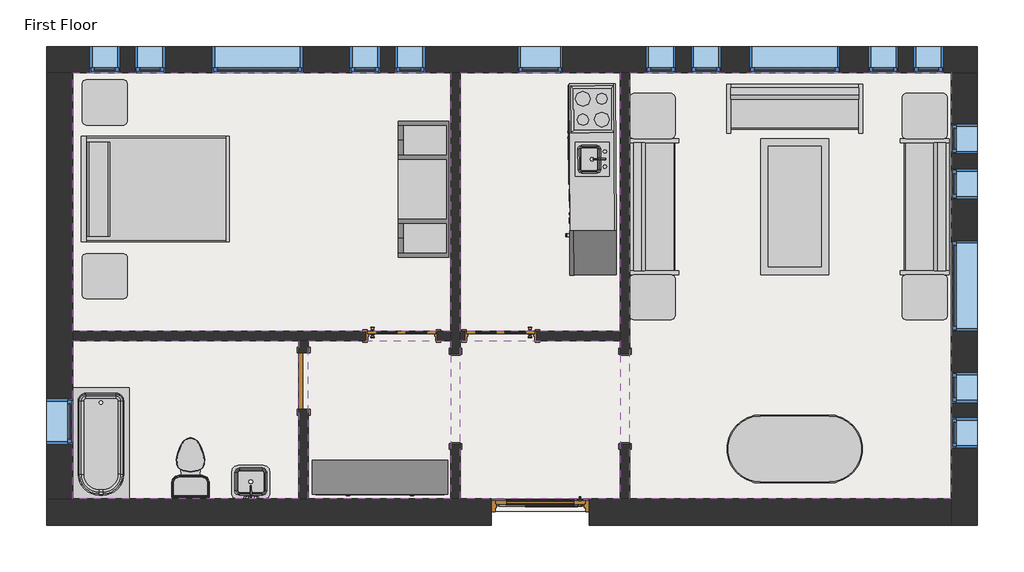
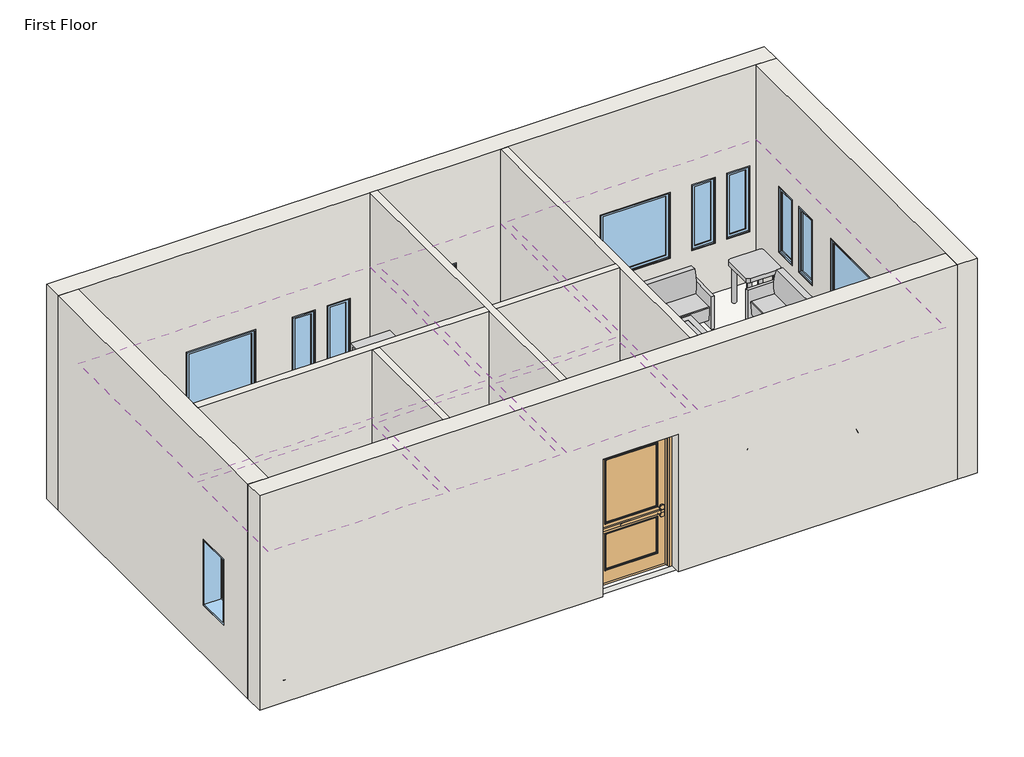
# One storey, incomplete: 17 windows, 15 furniture elements, 8 walls, 6 coverings, 6 proxies, 4 doors, 4 flow terminals, 1 slab.
"""IFC4 building model written with IfcOpenShell, lengths in millimetres."""

from ifc_helpers import new_model, si_unit, frame, origin, place, context, project, spatial, polyline, outline, extrude, faceted_brep, transform, mapped, element, save
from components import proxy_a6faaae8, proxy_45b28599, kitchenette_medium_kitchenette_medium_7c2ce49e, proxy_f44482cc, proxy_d58c73d0, proxy_c523a7b7, door_734823c0, door_3a280f7b, door_48307b55, door_4d6c7550, flow_terminal_871c2e40, flow_terminal_62a433f7, toilet_domestic_3d_toilet_domestic_3d_f7549cf7, toilet_domestic_3d_toilet_domestic_3d_183bbd19, tub_rectangular_3d_tub_rectangular_3d_c56944d8, furniture_096e7f55, furniture_b11095bc, furniture_7c473f12, furniture_cf0b6580, furniture_a4ffab56, furniture_cd93a443, furniture_2c34a4f9, furniture_bcf351fa, window_da97879f, window_d61ef850, window_60baf983, window_6eb97611

model = new_model("IFC4")

# Units and contexts
model_context = context("Model", 3, world=origin())
ifc_project = project(units=[si_unit("LENGTHUNIT", "METRE", prefix="MILLI")], contexts=[model_context])

# Site, building, storey
site = spatial("IfcSite", under=ifc_project)
building = spatial("IfcBuilding", under=site)
storey = spatial("IfcBuildingStorey", under=building, Name="First Floor", Elevation=-914.4)

# Proxies
placement = place(None, origin())
proxy_shape = proxy_a6faaae8(model_context)
element("IfcBuildingElementProxy", 1, Name="Cook Top-4 Unit2 : 22\" x 20\"", ObjectType="Cook Top-4 Unit2 : 22\" x 20\"", at=placement, inside=storey, context=model_context, shape_type="MappedRepresentation", body=[
    mapped(proxy_shape, transform((-9018.4960044, 7119.1504805, -912.7), x_axis=(-0.006146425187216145, 0.9999811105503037, 0.0), y_axis=(-0.9999811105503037, -0.006146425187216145, 0.0), z_axis=(0.0, 0.0, 1.0))),
])
proxy_2_shape = proxy_45b28599(model_context)
element("IfcBuildingElementProxy", 2, Name="Dishwasher : 24\" x 24\" x 34\"", ObjectType="Dishwasher : 24\" x 24\" x 34\"", at=placement, inside=storey, context=model_context, shape_type="MappedRepresentation", body=[
    mapped(proxy_2_shape, transform((-9272.7442837, 6166.3872338, -914.4), x_axis=(0.006146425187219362, -0.9999811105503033, 0.0), y_axis=(0.9999811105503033, 0.006146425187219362, 0.0), z_axis=(0.0, 0.0, 1.0))),
])
kitchenette_medium_kitchenette_medium_shape = kitchenette_medium_kitchenette_medium_7c2ce49e(model_context)
element("IfcBuildingElementProxy", 3, Name="Kitchenette - Medium : Kitchenette - Medium", ObjectType="Kitchenette - Medium : Kitchenette - Medium", at=placement, inside=storey, context=model_context, shape_type="MappedRepresentation", body=[
    mapped(kitchenette_medium_kitchenette_medium_shape, transform((-8705.3594425, 6796.9067689, -914.4), x_axis=(0.006146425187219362, -0.9999811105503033, 0.0), y_axis=(0.9999811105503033, 0.006146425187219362, 0.0), z_axis=(0.0, 0.0, 1.0))),
])
proxy_3_shape = proxy_f44482cc(model_context)
element("IfcBuildingElementProxy", 4, Name="Passage Opening-Cased : 48\" x 84\"", ObjectType="Passage Opening-Cased : 48\" x 84\"", at=placement, inside=storey, context=model_context, shape_type="MappedRepresentation", body=[
    mapped(proxy_3_shape, transform((-8577.1844712, 3224.0452741, -914.4), x_axis=(0.0, 1.0, 0.0), y_axis=(-1.0, 0.0, 0.0), z_axis=(0.0, 0.0, 1.0))),
])
proxy_4_shape = proxy_d58c73d0(model_context)
element("IfcBuildingElementProxy", 5, Name="Passage Opening-Cased : 48\" x 84\"", ObjectType="Passage Opening-Cased : 48\" x 84\"", at=placement, inside=storey, context=model_context, shape_type="MappedRepresentation", body=[
    mapped(proxy_4_shape, transform((-10863.1844712, 3224.0452741, -914.4), x_axis=(0.0, 1.0, 0.0), y_axis=(-1.0, 0.0, 0.0), z_axis=(0.0, 0.0, 1.0))),
])
proxy_5_shape = proxy_c523a7b7(model_context)
element("IfcBuildingElementProxy", 6, Name="Refrigerator : 24\" x 25\" LH", ObjectType="Refrigerator : 24\" x 25\" LH", at=placement, inside=storey, context=model_context, shape_type="MappedRepresentation", body=[
    mapped(proxy_5_shape, transform((-8995.0911041, 5182.5077549, -914.4), x_axis=(0.006146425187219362, -0.9999811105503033, 0.0), y_axis=(0.9999811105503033, 0.006146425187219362, 0.0), z_axis=(0.0, 0.0, 1.0))),
])

# Coverings
element("IfcCovering", 7, ObjectType="GWB on Mtl. Stud", at=placement, inside=storey, context=model_context, shape_type="SweptSolid", body=[
    extrude(outline(polyline([(-16020.9719712, 7611.6441174), (-10926.6844712, 7611.6441174), (-10926.6844712, 4128.6691174), (-16020.9719712, 4128.6691174), (-16020.9719712, 7611.6441174)])), frame((0.0, 0.0, 1676.4), z_axis=(0.0, 0.0, 1.0), x_axis=(1.0, 0.0, 0.0)), (0.0, 0.0, 1.0), 107.95),
])
element("IfcCovering", 8, ObjectType="GWB on Mtl. Stud", at=placement, inside=storey, context=model_context, shape_type="SweptSolid", body=[
    extrude(outline(polyline([(-10799.6844712, 4128.6691174), (-10799.6844712, 7611.6441174), (-8640.6844712, 7611.6441174), (-8640.6844712, 4128.6691174), (-10799.6844712, 4128.6691174)])), frame((0.0, 0.0, 1676.4), z_axis=(0.0, 0.0, 1.0), x_axis=(1.0, 0.0, 0.0)), (0.0, 0.0, 1.0), 107.95),
])
element("IfcCovering", 9, ObjectType="GWB on Mtl. Stud", at=placement, inside=storey, context=model_context, shape_type="SweptSolid", body=[
    extrude(outline(polyline([(-8513.6844712, 1868.0691174), (-8513.6844712, 7611.6441174), (-4181.3969712, 7611.6441174), (-4181.3969712, 1868.0691174), (-8513.6844712, 1868.0691174)])), frame((0.0, 0.0, 1676.4), z_axis=(0.0, 0.0, 1.0), x_axis=(1.0, 0.0, 0.0)), (0.0, 0.0, 1.0), 107.95),
])
element("IfcCovering", 10, ObjectType="GWB on Mtl. Stud", at=placement, inside=storey, context=model_context, shape_type="SweptSolid", body=[
    extrude(outline(polyline([(-8640.6844712, 1868.0691174), (-10799.6844712, 1868.0691174), (-10799.6844712, 4001.6691174), (-8640.6844712, 4001.6691174), (-8640.6844712, 1868.0691174)])), frame((0.0, 0.0, 1676.4), z_axis=(0.0, 0.0, 1.0), x_axis=(1.0, 0.0, 0.0)), (0.0, 0.0, 1.0), 107.95),
])
element("IfcCovering", 11, ObjectType="GWB on Mtl. Stud", at=placement, inside=storey, context=model_context, shape_type="SweptSolid", body=[
    extrude(outline(polyline([(-10926.6844712, 1868.0691174), (-12845.9719712, 1868.0691174), (-12845.9719712, 4001.6691174), (-10926.6844712, 4001.6691174), (-10926.6844712, 1868.0691174)])), frame((0.0, 0.0, 1676.4), z_axis=(0.0, 0.0, 1.0), x_axis=(1.0, 0.0, 0.0)), (0.0, 0.0, 1.0), 107.95),
])
element("IfcCovering", 12, ObjectType="GWB on Mtl. Stud", at=placement, inside=storey, context=model_context, shape_type="SweptSolid", body=[
    extrude(outline(polyline([(-12972.9719712, 4001.6691174), (-12972.9719712, 1868.0691174), (-16020.9719712, 1868.0691174), (-16020.9719712, 4001.6691174), (-12972.9719712, 4001.6691174)])), frame((0.0, 0.0, 1676.4), z_axis=(0.0, 0.0, 1.0), x_axis=(1.0, 0.0, 0.0)), (0.0, 0.0, 1.0), 107.95),
])

# Doors
door_shape = door_734823c0(model_context)
element("IfcDoor", 13, ObjectType="Door-Exterior-Single-Two_Lite : 48\" x 96\"", at=placement, inside=storey, context=model_context, shape_type="MappedRepresentation", body=[
    mapped(door_shape, transform((-9720.1844712, 1685.5066174, -914.4), x_axis=(-1.0, 0.0, 0.0), y_axis=(0.0, -1.0, 0.0), z_axis=(0.0, 0.0, 1.0))),
])
door_2_shape = door_3a280f7b(model_context)
element("IfcDoor", 14, ObjectType="Door-Interior-Single-4_Panel-Wood : 36\" x 84\"", at=placement, inside=storey, context=model_context, shape_type="MappedRepresentation", body=[
    mapped(door_2_shape, transform((-10253.5844712, 4068.3441174, -914.4), x_axis=(-1.0, 0.0, 0.0), y_axis=(0.0, -1.0, 0.0), z_axis=(0.0, 0.0, 1.0))),
])
door_3_shape = door_48307b55(model_context)
element("IfcDoor", 15, ObjectType="Door-Interior-Single-4_Panel-Wood : 36\" x 84\"", at=placement, inside=storey, context=model_context, shape_type="MappedRepresentation", body=[
    mapped(door_3_shape, transform((-11588.6719712, 4068.3441174, -914.4), x_axis=(1.0, 0.0, 0.0), y_axis=(0.0, 1.0, 0.0), z_axis=(0.0, 0.0, 1.0))),
])
door_4_shape = door_4d6c7550(model_context)
element("IfcDoor", 16, ObjectType="Single-Flush : 30\" x 84\"", at=placement, inside=storey, context=model_context, shape_type="MappedRepresentation", body=[
    mapped(door_4_shape, transform((-12909.4719712, 3455.5691174, -914.4), x_axis=(0.0, 1.0, 0.0), y_axis=(-1.0, 0.0, 0.0), z_axis=(0.0, 0.0, 1.0))),
])

# Flow terminals
flow_terminal_shape = flow_terminal_871c2e40(model_context)
element("IfcFlowTerminal", 17, ObjectType="Sink Kitchen-Island : 18\" x 18\"", at=placement, inside=storey, context=model_context, shape_type="MappedRepresentation", body=[
    mapped(flow_terminal_shape, transform((-9023.1505152, 6461.6986936, -927.1), x_axis=(0.006146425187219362, -0.9999811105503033, 0.0), y_axis=(0.9999811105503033, 0.006146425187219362, 0.0), z_axis=(0.0, 0.0, 1.0))),
])
flow_terminal_2_shape = flow_terminal_62a433f7(model_context)
element("IfcFlowTerminal", 18, ObjectType="Sink Vanity-Square : 20\" x 18\"", at=placement, inside=storey, context=model_context, shape_type="MappedRepresentation", body=[
    mapped(flow_terminal_2_shape, transform((-13604.9827307, 2048.2145185, -914.4), x_axis=(-1.0, 0.0, 0.0), y_axis=(0.0, -1.0, 0.0), z_axis=(0.0, 0.0, 1.0))),
])
toilet_domestic_3d_toilet_domestic_3d_shape = toilet_domestic_3d_toilet_domestic_3d_f7549cf7(model_context)
toilet_domestic_3d_toilet_domestic_3d_2_shape = toilet_domestic_3d_toilet_domestic_3d_183bbd19(model_context)
element("IfcFlowTerminal", 19, ObjectType="Toilet-Domestic-3D : Toilet-Domestic-3D", at=placement, inside=storey, context=model_context, shape_type="MappedRepresentation", body=[
    mapped(toilet_domestic_3d_toilet_domestic_3d_shape, transform((-14433.4719712, 2388.7691174, -914.4), x_axis=(-1.0, 0.0, 0.0), y_axis=(0.0, -1.0, 0.0), z_axis=(0.0, 0.0, 1.0))),
    mapped(toilet_domestic_3d_toilet_domestic_3d_2_shape, transform((-14433.4719712, 2388.7691174, -914.4), x_axis=(-1.0, 0.0, 0.0), y_axis=(0.0, -1.0, 0.0), z_axis=(0.0, 0.0, 1.0))),
])
tub_rectangular_3d_tub_rectangular_3d_shape = tub_rectangular_3d_tub_rectangular_3d_c56944d8(model_context)
element("IfcFlowTerminal", 20, ObjectType="Tub-Rectangular-3D : Tub-Rectangular-3D", at=placement, inside=storey, context=model_context, shape_type="MappedRepresentation", body=[
    mapped(tub_rectangular_3d_tub_rectangular_3d_shape, transform((-16197.1844712, 2257.6536487, -914.4), x_axis=(0.0, -1.0, 0.0), y_axis=(1.0, 0.0, 0.0), z_axis=(0.0, 0.0, 1.0))),
])

# Furniture
furniture_shape = furniture_096e7f55(model_context)
element("IfcFurniture", 21, ObjectType="Bed-Shaker : Double 56\" x 78\"", at=placement, inside=storey, context=model_context, shape_type="MappedRepresentation", body=[
    mapped(furniture_shape, transform((-15892.3844712, 6061.1004868, -914.4), x_axis=(0.0, 1.0, 0.0), y_axis=(-1.0, 0.0, 0.0), z_axis=(0.0, 0.0, 1.0))),
])
furniture_2_shape = furniture_b11095bc(model_context)
element("IfcFurniture", 22, ObjectType="Counter Top w Sink Hole : 24\" Depth", at=placement, inside=storey, context=model_context, shape_type="MappedRepresentation", body=[
    mapped(furniture_2_shape, transform((-8702.0809393, 6263.5168445, -927.1), x_axis=(0.006146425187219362, -0.9999811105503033, 0.0), y_axis=(0.9999811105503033, 0.006146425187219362, 0.0), z_axis=(0.0, 0.0, 1.0))),
])
furniture_3_shape = furniture_7c473f12(model_context)
element("IfcFurniture", 23, ObjectType="Dresser : 72\" x 60\" x 18\"", at=placement, inside=storey, context=model_context, shape_type="MappedRepresentation", body=[
    mapped(furniture_3_shape, transform((-11609.9912114, 2523.3320715, -914.4), x_axis=(1.0, 0.0, 0.0), y_axis=(0.0, 1.0, 0.0), z_axis=(0.0, 0.0, 1.0))),
])
furniture_4_shape = furniture_cf0b6580(model_context)
element("IfcFurniture", 24, ObjectType="Entertainment Center : 72\" x 72\" x 24\"", at=placement, inside=storey, context=model_context, shape_type="MappedRepresentation", body=[
    mapped(furniture_4_shape, transform((-10853.8463977, 6042.0504868, -914.4), x_axis=(0.0, -1.0, 0.0), y_axis=(1.0, 0.0, 0.0), z_axis=(0.0, 0.0, 1.0))),
])
furniture_5_shape = furniture_a4ffab56(model_context)
element("IfcFurniture", 25, ObjectType="Sofa : 72\"", at=placement, inside=storey, context=model_context, shape_type="MappedRepresentation", body=[
    mapped(furniture_5_shape, transform((-8037.3303728, 5736.2861256, -914.4), x_axis=(0.0, 1.0, 0.0), y_axis=(-1.0, 0.0, 0.0), z_axis=(0.0, 0.0, 1.0))),
])
element("IfcFurniture", 26, ObjectType="Sofa : 72\"", at=placement, inside=storey, context=model_context, shape_type="MappedRepresentation", body=[
    mapped(furniture_5_shape, transform((-6361.554963, 6982.890019, -914.4), x_axis=(1.0, 0.0, 0.0), y_axis=(0.0, 1.0, 0.0), z_axis=(0.0, 0.0, 1.0))),
])
element("IfcFurniture", 27, ObjectType="Sofa : 72\"", at=placement, inside=storey, context=model_context, shape_type="MappedRepresentation", body=[
    mapped(furniture_5_shape, transform((-4684.7385696, 5877.0271092, -914.4), x_axis=(0.0, -1.0, 0.0), y_axis=(1.0, 0.0, 0.0), z_axis=(0.0, 0.0, 1.0))),
])
furniture_6_shape = furniture_cd93a443(model_context)
element("IfcFurniture", 28, ObjectType="Table-Coffee : 36\" x 72\" x 18\"", at=placement, inside=storey, context=model_context, shape_type="MappedRepresentation", body=[
    mapped(furniture_6_shape, transform((-6195.9733934, 5788.3908507, -914.4), x_axis=(0.0, 1.0, 0.0), y_axis=(-1.0, 0.0, 0.0), z_axis=(0.0, 0.0, 1.0))),
])
furniture_7_shape = furniture_2c34a4f9(model_context)
element("IfcFurniture", 29, ObjectType="Table-Dining Oval : 36\" x 72\"", at=placement, inside=storey, context=model_context, shape_type="MappedRepresentation", body=[
    mapped(furniture_7_shape, transform((-5889.3647991, 2899.2674781, -914.4), x_axis=(1.0, 0.0, 0.0), y_axis=(0.0, 1.0, 0.0), z_axis=(0.0, 0.0, 1.0))),
])
furniture_8_shape = furniture_bcf351fa(model_context)
element("IfcFurniture", 30, ObjectType="Table-End : 24\" x 24\"", at=placement, inside=storey, context=model_context, shape_type="MappedRepresentation", body=[
    mapped(furniture_8_shape, transform((-15896.1181015, 7058.0504868, -914.4), x_axis=(1.0, 0.0, 0.0), y_axis=(0.0, 1.0, 0.0), z_axis=(0.0, 0.0, 1.0))),
])
element("IfcFurniture", 31, ObjectType="Table-End : 24\" x 24\"", at=placement, inside=storey, context=model_context, shape_type="MappedRepresentation", body=[
    mapped(furniture_8_shape, transform((-15896.1181015, 4716.0441174, -914.4), x_axis=(1.0, 0.0, 0.0), y_axis=(0.0, 1.0, 0.0), z_axis=(0.0, 0.0, 1.0))),
])
element("IfcFurniture", 32, ObjectType="Table-End : 24\" x 24\"", at=placement, inside=storey, context=model_context, shape_type="MappedRepresentation", body=[
    mapped(furniture_8_shape, transform((-8517.4181015, 6875.0441174, -914.4), x_axis=(1.0, 0.0, 0.0), y_axis=(0.0, 1.0, 0.0), z_axis=(0.0, 0.0, 1.0))),
])
element("IfcFurniture", 33, ObjectType="Table-End : 24\" x 24\"", at=placement, inside=storey, context=model_context, shape_type="MappedRepresentation", body=[
    mapped(furniture_8_shape, transform((-8517.4181015, 4435.0566174, -914.4), x_axis=(1.0, 0.0, 0.0), y_axis=(0.0, 1.0, 0.0), z_axis=(0.0, 0.0, 1.0))),
])
element("IfcFurniture", 34, ObjectType="Table-End : 24\" x 24\"", at=placement, inside=storey, context=model_context, shape_type="MappedRepresentation", body=[
    mapped(furniture_8_shape, transform((-4847.1181015, 4433.4691174, -914.4), x_axis=(1.0, 0.0, 0.0), y_axis=(0.0, 1.0, 0.0), z_axis=(0.0, 0.0, 1.0))),
])
element("IfcFurniture", 35, ObjectType="Table-End : 24\" x 24\"", at=placement, inside=storey, context=model_context, shape_type="MappedRepresentation", body=[
    mapped(furniture_8_shape, transform((-4847.1181015, 6875.0441174, -914.4), x_axis=(1.0, 0.0, 0.0), y_axis=(0.0, 1.0, 0.0), z_axis=(0.0, 0.0, 1.0))),
])

# Slab
element("IfcSlab", 36, ObjectType="LW Concrete on Metal Deck", at=placement, inside=storey, context=model_context, shape_type="SweptSolid", body=[
    extrude(outline(polyline([(-4016.2969712, 7776.7441174), (-4016.2969712, 1702.9691174), (-16186.0719712, 1702.9691174), (-16186.0719712, 7776.7441174), (-4016.2969712, 7776.7441174)])), frame((0.0, 0.0, -1019.175), z_axis=(0.0, 0.0, 1.0), x_axis=(1.0, 0.0, 0.0)), (0.0, 0.0, 1.0), 104.775),
])

# Walls
element("IfcWall", 37, ObjectType="Exterior - Brick on Mtl. Stud", at=placement, inside=storey, context=model_context, shape_type="Brep", body=[
    faceted_brep([(-16373.3969712, 7611.6441174, -914.4), (-16186.0719712, 7611.6441174, -914.4), (-16020.9719712, 7611.6441174, -914.4), (-10926.6844712, 7611.6441174, -914.4), (-10799.6844712, 7611.6441174, -914.4), (-8640.6844712, 7611.6441174, -914.4), (-8513.6844712, 7611.6441174, -914.4), (-4181.3969712, 7611.6441174, -914.4), (-4016.2969712, 7611.6441174, -914.4), (-3828.9719712, 7611.6441174, -914.4), (-3828.9719712, 7611.6441174, 3048.0), (-4181.3969712, 7611.6441174, 3048.0), (-8513.6844712, 7611.6441174, 3048.0), (-8640.6844712, 7611.6441174, 3048.0), (-10799.6844712, 7611.6441174, 3048.0), (-10926.6844712, 7611.6441174, 3048.0), (-16020.9719712, 7611.6441174, 3048.0), (-16373.3969712, 7611.6441174, 3048.0), (-10024.9844712, 7611.6441174, 1219.2), (-9415.3844712, 7611.6441174, 1219.2), (-9415.3844712, 7611.6441174, 0.0), (-10024.9844712, 7611.6441174, 0.0), (-14139.7844712, 7611.6441174, 1219.2), (-12920.5844712, 7611.6441174, 1219.2), (-12920.5844712, 7611.6441174, 0.0), (-14139.7844712, 7611.6441174, 0.0), (-6900.7844712, 7611.6441174, 1219.2), (-5681.5844712, 7611.6441174, 1219.2), (-5681.5844712, 7611.6441174, 0.0), (-6900.7844712, 7611.6441174, 0.0), (-15790.7844712, 7611.6441174, 1219.2), (-15384.3844712, 7611.6441174, 1219.2), (-15384.3844712, 7611.6441174, 0.0), (-15790.7844712, 7611.6441174, 0.0), (-15181.1844712, 7611.6441174, 1219.2), (-14774.7844712, 7611.6441174, 1219.2), (-14774.7844712, 7611.6441174, 0.0), (-15181.1844712, 7611.6441174, 0.0), (-11879.1844712, 7611.6441174, 1219.2), (-11879.1844712, 7611.6441174, 0.0), (-12285.5844712, 7611.6441174, 0.0), (-12285.5844712, 7611.6441174, 1219.2), (-11269.5844712, 7611.6441174, 1219.2), (-11269.5844712, 7611.6441174, 0.0), (-11675.9844712, 7611.6441174, 0.0), (-11675.9844712, 7611.6441174, 1219.2), (-7688.1844712, 7611.6441174, 1219.2), (-7281.7844712, 7611.6441174, 1219.2), (-7281.7844712, 7611.6441174, 0.0), (-7688.1844712, 7611.6441174, 0.0), (-8297.7844712, 7611.6441174, 1219.2), (-7891.3844712, 7611.6441174, 1219.2), (-7891.3844712, 7611.6441174, 0.0), (-8297.7844712, 7611.6441174, 0.0), (-4894.1844712, 7611.6441174, 1219.2), (-4894.1844712, 7611.6441174, 0.0), (-5300.5844712, 7611.6441174, 0.0), (-5300.5844712, 7611.6441174, 1219.2), (-4284.5844712, 7611.6441174, 1219.2), (-4284.5844712, 7611.6441174, 0.0), (-4690.9844712, 7611.6441174, 0.0), (-4690.9844712, 7611.6441174, 1219.2), (-16373.3969712, 7964.0691174, -914.4), (-16373.3969712, 7964.0691174, 3048.0), (-3828.9719712, 7964.0691174, 3048.0), (-3828.9719712, 7964.0691174, -914.4), (-4016.2969712, 7964.0691174, -914.4), (-16186.0719712, 7964.0691174, -914.4), (-10024.9844712, 7964.0691174, 1219.2), (-10024.9844712, 7964.0691174, 0.0), (-9415.3844712, 7964.0691174, 0.0), (-9415.3844712, 7964.0691174, 1219.2), (-14139.7844712, 7964.0691174, 1219.2), (-14139.7844712, 7964.0691174, 0.0), (-12920.5844712, 7964.0691174, 0.0), (-12920.5844712, 7964.0691174, 1219.2), (-6900.7844712, 7964.0691174, 1219.2), (-6900.7844712, 7964.0691174, 0.0), (-5681.5844712, 7964.0691174, 0.0), (-5681.5844712, 7964.0691174, 1219.2), (-15790.7844712, 7964.0691174, 1219.2), (-15790.7844712, 7964.0691174, 0.0), (-15384.3844712, 7964.0691174, 0.0), (-15384.3844712, 7964.0691174, 1219.2), (-15181.1844712, 7964.0691174, 1219.2), (-15181.1844712, 7964.0691174, 0.0), (-14774.7844712, 7964.0691174, 0.0), (-14774.7844712, 7964.0691174, 1219.2), (-11879.1844712, 7964.0691174, 1219.2), (-12285.5844712, 7964.0691174, 1219.2), (-12285.5844712, 7964.0691174, 0.0), (-11879.1844712, 7964.0691174, 0.0), (-11269.5844712, 7964.0691174, 1219.2), (-11675.9844712, 7964.0691174, 1219.2), (-11675.9844712, 7964.0691174, 0.0), (-11269.5844712, 7964.0691174, 0.0), (-7688.1844712, 7964.0691174, 1219.2), (-7688.1844712, 7964.0691174, 0.0), (-7281.7844712, 7964.0691174, 0.0), (-7281.7844712, 7964.0691174, 1219.2), (-8297.7844712, 7964.0691174, 1219.2), (-8297.7844712, 7964.0691174, 0.0), (-7891.3844712, 7964.0691174, 0.0), (-7891.3844712, 7964.0691174, 1219.2), (-4894.1844712, 7964.0691174, 1219.2), (-5300.5844712, 7964.0691174, 1219.2), (-5300.5844712, 7964.0691174, 0.0), (-4894.1844712, 7964.0691174, 0.0), (-4284.5844712, 7964.0691174, 1219.2), (-4690.9844712, 7964.0691174, 1219.2), (-4690.9844712, 7964.0691174, 0.0), (-4284.5844712, 7964.0691174, 0.0), (-3828.9719712, 7776.7441174, -914.4), (-16373.3969712, 7776.7441174, -914.4), (-16186.0719712, 7776.7441174, -914.4), (-4016.2969712, 7776.7441174, -914.4)], [[[0, 1, 2, 3, 4, 5, 6, 7, 8, 9, 10, 11, 12, 13, 14, 15, 16, 17], [18, 19, 20, 21], [22, 23, 24, 25], [26, 27, 28, 29], [30, 31, 32, 33], [34, 35, 36, 37], [38, 39, 40, 41], [42, 43, 44, 45], [46, 47, 48, 49], [50, 51, 52, 53], [54, 55, 56, 57], [58, 59, 60, 61]], [[62, 63, 64, 65, 66, 67], [68, 69, 70, 71], [72, 73, 74, 75], [76, 77, 78, 79], [80, 81, 82, 83], [84, 85, 86, 87], [88, 89, 90, 91], [92, 93, 94, 95], [96, 97, 98, 99], [100, 101, 102, 103], [104, 105, 106, 107], [108, 109, 110, 111]], [[17, 16, 15, 14, 13, 12, 11, 10, 64, 63]], [[10, 9, 112, 65, 64]], [[0, 17, 63, 62, 113]], [[69, 68, 18, 21]], [[70, 69, 21, 20]], [[71, 70, 20, 19]], [[68, 71, 19, 18]], [[73, 72, 22, 25]], [[74, 73, 25, 24]], [[75, 74, 24, 23]], [[72, 75, 23, 22]], [[77, 76, 26, 29]], [[78, 77, 29, 28]], [[79, 78, 28, 27]], [[76, 79, 27, 26]], [[81, 80, 30, 33]], [[82, 81, 33, 32]], [[83, 82, 32, 31]], [[80, 83, 31, 30]], [[85, 84, 34, 37]], [[86, 85, 37, 36]], [[87, 86, 36, 35]], [[84, 87, 35, 34]], [[39, 38, 88, 91]], [[40, 39, 91, 90]], [[41, 40, 90, 89]], [[38, 41, 89, 88]], [[43, 42, 92, 95]], [[44, 43, 95, 94]], [[45, 44, 94, 93]], [[42, 45, 93, 92]], [[97, 96, 46, 49]], [[98, 97, 49, 48]], [[99, 98, 48, 47]], [[96, 99, 47, 46]], [[101, 100, 50, 53]], [[102, 101, 53, 52]], [[103, 102, 52, 51]], [[100, 103, 51, 50]], [[55, 54, 104, 107]], [[56, 55, 107, 106]], [[57, 56, 106, 105]], [[54, 57, 105, 104]], [[59, 58, 108, 111]], [[60, 59, 111, 110]], [[61, 60, 110, 109]], [[58, 61, 109, 108]], [[1, 0, 113, 114]], [[113, 62, 67, 114]], [[9, 8, 115, 112]], [[67, 66, 115, 114]], [[66, 65, 112, 115]], [[8, 7, 6, 5, 4, 3, 2, 1, 114, 115]]]),
])
element("IfcWall", 38, ObjectType="Exterior - Brick on Mtl. Stud", at=placement, inside=storey, context=model_context, shape_type="Brep", body=[
    faceted_brep([(-4181.3969712, 7611.6441174, -914.4), (-4181.3969712, 1868.0691174, -914.4), (-4181.3969712, 1702.9691174, -914.4), (-4181.3969712, 1515.6441174, -914.4), (-4181.3969712, 1515.6441174, 3048.0), (-4181.3969712, 1868.0691174, 3048.0), (-4181.3969712, 7611.6441174, 3048.0), (-4181.3969712, 5349.4566174, 1219.2), (-4181.3969712, 4130.2566174, 1219.2), (-4181.3969712, 4130.2566174, 0.0), (-4181.3969712, 5349.4566174, 0.0), (-4181.3969712, 6314.6566174, 1219.2), (-4181.3969712, 5908.2566174, 1219.2), (-4181.3969712, 5908.2566174, 0.0), (-4181.3969712, 6314.6566174, 0.0), (-4181.3969712, 6924.2566174, 1219.2), (-4181.3969712, 6517.8566174, 1219.2), (-4181.3969712, 6517.8566174, 0.0), (-4181.3969712, 6924.2566174, 0.0), (-4181.3969712, 3165.0566174, 1219.2), (-4181.3969712, 3165.0566174, 0.0), (-4181.3969712, 3571.4566174, 0.0), (-4181.3969712, 3571.4566174, 1219.2), (-4181.3969712, 2555.4566174, 1219.2), (-4181.3969712, 2555.4566174, 0.0), (-4181.3969712, 2961.8566174, 0.0), (-4181.3969712, 2961.8566174, 1219.2), (-3828.9719712, 7611.6441174, -914.4), (-3828.9719712, 7611.6441174, 3048.0), (-3828.9719712, 1515.6441174, 3048.0), (-3828.9719712, 1515.6441174, -914.4), (-3828.9719712, 1702.9691174, -914.4), (-3828.9719712, 5349.4566174, 1219.2), (-3828.9719712, 5349.4566174, 0.0), (-3828.9719712, 4130.2566174, 0.0), (-3828.9719712, 4130.2566174, 1219.2), (-3828.9719712, 6314.6566174, 1219.2), (-3828.9719712, 6314.6566174, 0.0), (-3828.9719712, 5908.2566174, 0.0), (-3828.9719712, 5908.2566174, 1219.2), (-3828.9719712, 6924.2566174, 1219.2), (-3828.9719712, 6924.2566174, 0.0), (-3828.9719712, 6517.8566174, 0.0), (-3828.9719712, 6517.8566174, 1219.2), (-3828.9719712, 3165.0566174, 1219.2), (-3828.9719712, 3571.4566174, 1219.2), (-3828.9719712, 3571.4566174, 0.0), (-3828.9719712, 3165.0566174, 0.0), (-3828.9719712, 2555.4566174, 1219.2), (-3828.9719712, 2961.8566174, 1219.2), (-3828.9719712, 2961.8566174, 0.0), (-3828.9719712, 2555.4566174, 0.0), (-4016.2969712, 7611.6441174, -914.4), (-4016.2969712, 1515.6441174, -914.4), (-4016.2969712, 1702.9691174, -914.4)], [[[0, 1, 2, 3, 4, 5, 6], [7, 8, 9, 10], [11, 12, 13, 14], [15, 16, 17, 18], [19, 20, 21, 22], [23, 24, 25, 26]], [[27, 28, 29, 30, 31], [32, 33, 34, 35], [36, 37, 38, 39], [40, 41, 42, 43], [44, 45, 46, 47], [48, 49, 50, 51]], [[6, 5, 4, 29, 28]], [[0, 6, 28, 27, 52]], [[4, 3, 53, 30, 29]], [[33, 32, 7, 10]], [[34, 33, 10, 9]], [[35, 34, 9, 8]], [[32, 35, 8, 7]], [[37, 36, 11, 14]], [[38, 37, 14, 13]], [[39, 38, 13, 12]], [[36, 39, 12, 11]], [[41, 40, 15, 18]], [[42, 41, 18, 17]], [[43, 42, 17, 16]], [[40, 43, 16, 15]], [[20, 19, 44, 47]], [[21, 20, 47, 46]], [[22, 21, 46, 45]], [[19, 22, 45, 44]], [[24, 23, 48, 51]], [[25, 24, 51, 50]], [[26, 25, 50, 49]], [[23, 26, 49, 48]], [[52, 27, 31, 54]], [[3, 2, 54, 53]], [[54, 31, 30, 53]], [[2, 1, 0, 52, 54]]]),
])
element("IfcWall", 39, ObjectType="Exterior - Brick on Mtl. Stud", at=placement, inside=storey, context=model_context, shape_type="Brep", body=[
    faceted_brep([(-16373.3969712, 1868.0691174, 3048.0), (-16020.9719712, 1868.0691174, 3048.0), (-12972.9719712, 1868.0691174, 3048.0), (-12845.9719712, 1868.0691174, 3048.0), (-10926.6844712, 1868.0691174, 3048.0), (-10799.6844712, 1868.0691174, 3048.0), (-8640.6844712, 1868.0691174, 3048.0), (-8513.6844712, 1868.0691174, 3048.0), (-4181.3969712, 1868.0691174, 3048.0), (-4181.3969712, 1868.0691174, -914.4), (-8513.6844712, 1868.0691174, -914.4), (-8640.6844712, 1868.0691174, -914.4), (-9059.7844712, 1868.0691174, -914.4), (-9059.7844712, 1868.0691174, 1625.6), (-10380.5844712, 1868.0691174, 1625.6), (-10380.5844712, 1868.0691174, -914.4), (-10799.6844712, 1868.0691174, -914.4), (-10926.6844712, 1868.0691174, -914.4), (-12845.9719712, 1868.0691174, -914.4), (-12972.9719712, 1868.0691174, -914.4), (-16020.9719712, 1868.0691174, -914.4), (-16373.3969712, 1868.0691174, -914.4), (-4181.3969712, 1515.6441174, 3048.0), (-16373.3969712, 1515.6441174, 3048.0), (-16373.3969712, 1515.6441174, -914.4), (-10380.5844712, 1515.6441174, -914.4), (-10380.5844712, 1515.6441174, 1625.6), (-9059.7844712, 1515.6441174, 1625.6), (-9059.7844712, 1515.6441174, -914.4), (-4181.3969712, 1515.6441174, -914.4)], [[[0, 1, 2, 3, 4, 5, 6, 7, 8, 9, 10, 11, 12, 13, 14, 15, 16, 17, 18, 19, 20, 21]], [[22, 23, 24, 25, 26, 27, 28, 29]], [[9, 29, 28, 12, 11, 10]], [[24, 21, 20, 19, 18, 17, 16, 15, 25]], [[8, 7, 6, 5, 4, 3, 2, 1, 0, 23, 22]], [[9, 8, 22, 29]], [[0, 21, 24, 23]], [[14, 26, 25, 15]], [[26, 14, 13, 27]], [[27, 13, 12, 28]]]),
])
element("IfcWall", 40, ObjectType="Exterior - Brick on Mtl. Stud", at=placement, inside=storey, context=model_context, shape_type="Brep", body=[
    faceted_brep([(-16020.9719712, 1868.0691174, -914.4), (-16020.9719712, 4001.6691174, -914.4), (-16020.9719712, 4128.6691174, -914.4), (-16020.9719712, 7611.6441174, -914.4), (-16020.9719712, 7611.6441174, 3048.0), (-16020.9719712, 4128.6691174, 3048.0), (-16020.9719712, 4001.6691174, 3048.0), (-16020.9719712, 1868.0691174, 3048.0), (-16020.9719712, 2606.2566174, 1219.2), (-16020.9719712, 3215.8566174, 1219.2), (-16020.9719712, 3215.8566174, 0.0), (-16020.9719712, 2606.2566174, 0.0), (-16373.3969712, 1868.0691174, -914.4), (-16373.3969712, 1868.0691174, 3048.0), (-16373.3969712, 7611.6441174, 3048.0), (-16373.3969712, 7611.6441174, -914.4), (-16373.3969712, 2606.2566174, 1219.2), (-16373.3969712, 2606.2566174, 0.0), (-16373.3969712, 3215.8566174, 0.0), (-16373.3969712, 3215.8566174, 1219.2), (-16186.0719712, 1868.0691174, -914.4), (-16186.0719712, 7611.6441174, -914.4)], [[[0, 1, 2, 3, 4, 5, 6, 7], [8, 9, 10, 11]], [[12, 13, 14, 15], [16, 17, 18, 19]], [[7, 6, 5, 4, 14, 13]], [[0, 7, 13, 12, 20]], [[4, 3, 21, 15, 14]], [[17, 16, 8, 11]], [[18, 17, 11, 10]], [[19, 18, 10, 9]], [[16, 19, 9, 8]], [[20, 12, 15, 21]], [[3, 2, 1, 0, 20, 21]]]),
])
element("IfcWall", 41, ObjectType="Interior - 5\" Partition (2-hr)", at=placement, inside=storey, context=model_context, shape_type="Brep", body=[
    faceted_brep([(-8640.6844712, 7611.6441174, -914.4), (-8640.6844712, 4128.6691174, -914.4), (-8640.6844712, 4001.6691174, -914.4), (-8640.6844712, 3825.4566174, -914.4), (-8640.6844712, 3825.4566174, 1219.2), (-8640.6844712, 2606.2566174, 1219.2), (-8640.6844712, 2606.2566174, -914.4), (-8640.6844712, 1868.0691174, -914.4), (-8640.6844712, 1868.0691174, 3048.0), (-8640.6844712, 4001.6691174, 3048.0), (-8640.6844712, 4128.6691174, 3048.0), (-8640.6844712, 7611.6441174, 3048.0), (-8513.6844712, 3825.4566174, 1219.2), (-8513.6844712, 3825.4566174, -914.4), (-8513.6844712, 7611.6441174, -914.4), (-8513.6844712, 7611.6441174, 3048.0), (-8513.6844712, 1868.0691174, 3048.0), (-8513.6844712, 1868.0691174, -914.4), (-8513.6844712, 2606.2566174, -914.4), (-8513.6844712, 2606.2566174, 1219.2)], [[[0, 1, 2, 3, 4, 5, 6, 7, 8, 9, 10, 11]], [[12, 13, 14, 15, 16, 17, 18, 19]], [[18, 17, 7, 6]], [[14, 13, 3, 2, 1, 0]], [[11, 10, 9, 8, 16, 15]], [[0, 11, 15, 14]], [[8, 7, 17, 16]], [[6, 5, 19, 18]], [[4, 3, 13, 12]], [[5, 4, 12, 19]]]),
])
element("IfcWall", 42, ObjectType="Interior - 5\" Partition (2-hr)", at=placement, inside=storey, context=model_context, shape_type="Brep", body=[
    faceted_brep([(-10926.6844712, 7611.6441174, -914.4), (-10926.6844712, 4128.6691174, -914.4), (-10926.6844712, 4001.6691174, -914.4), (-10926.6844712, 3825.4566174, -914.4), (-10926.6844712, 3825.4566174, 1219.2), (-10926.6844712, 2606.2566174, 1219.2), (-10926.6844712, 2606.2566174, -914.4), (-10926.6844712, 1868.0691174, -914.4), (-10926.6844712, 1868.0691174, 3048.0), (-10926.6844712, 4001.6691174, 3048.0), (-10926.6844712, 4128.6691174, 3048.0), (-10926.6844712, 7611.6441174, 3048.0), (-10799.6844712, 3825.4566174, 1219.2), (-10799.6844712, 3825.4566174, -914.4), (-10799.6844712, 4001.6691174, -914.4), (-10799.6844712, 4128.6691174, -914.4), (-10799.6844712, 7611.6441174, -914.4), (-10799.6844712, 7611.6441174, 3048.0), (-10799.6844712, 4128.6691174, 3048.0), (-10799.6844712, 4001.6691174, 3048.0), (-10799.6844712, 1868.0691174, 3048.0), (-10799.6844712, 1868.0691174, -914.4), (-10799.6844712, 2606.2566174, -914.4), (-10799.6844712, 2606.2566174, 1219.2)], [[[0, 1, 2, 3, 4, 5, 6, 7, 8, 9, 10, 11]], [[12, 13, 14, 15, 16, 17, 18, 19, 20, 21, 22, 23]], [[22, 21, 7, 6]], [[16, 15, 14, 13, 3, 2, 1, 0]], [[11, 10, 9, 8, 20, 19, 18, 17]], [[0, 11, 17, 16]], [[8, 7, 21, 20]], [[6, 5, 23, 22]], [[4, 3, 13, 12]], [[5, 4, 12, 23]]]),
])
element("IfcWall", 43, ObjectType="Interior - 5\" Partition (2-hr)", at=placement, inside=storey, context=model_context, shape_type="Brep", body=[
    faceted_brep([(-16020.9719712, 4001.6691174, 3048.0), (-16020.9719712, 4001.6691174, -914.4), (-12972.9719712, 4001.6691174, -914.4), (-12845.9719712, 4001.6691174, -914.4), (-12071.2719712, 4001.6691174, -914.4), (-12071.2719712, 4001.6691174, 1244.6), (-11106.0719712, 4001.6691174, 1244.6), (-11106.0719712, 4001.6691174, -914.4), (-10926.6844712, 4001.6691174, -914.4), (-10926.6844712, 4001.6691174, 3048.0), (-12845.9719712, 4001.6691174, 3048.0), (-12972.9719712, 4001.6691174, 3048.0), (-16020.9719712, 4128.6691174, -914.4), (-16020.9719712, 4128.6691174, 3048.0), (-10926.6844712, 4128.6691174, 3048.0), (-10926.6844712, 4128.6691174, -914.4), (-11106.0719712, 4128.6691174, -914.4), (-11106.0719712, 4128.6691174, 1244.6), (-12071.2719712, 4128.6691174, 1244.6), (-12071.2719712, 4128.6691174, -914.4)], [[[0, 1, 2, 3, 4, 5, 6, 7, 8, 9, 10, 11]], [[12, 13, 14, 15, 16, 17, 18, 19]], [[1, 12, 19, 4, 3, 2]], [[7, 16, 15, 8]], [[13, 0, 11, 10, 9, 14]], [[1, 0, 13, 12]], [[9, 8, 15, 14]], [[6, 17, 16, 7]], [[17, 6, 5, 18]], [[18, 5, 4, 19]]]),
    faceted_brep([(-8640.6844712, 4001.6691174, -914.4), (-8640.6844712, 4001.6691174, 3048.0), (-10799.6844712, 4001.6691174, 3048.0), (-10799.6844712, 4001.6691174, -914.4), (-10736.1844712, 4001.6691174, -914.4), (-10736.1844712, 4001.6691174, 1244.6), (-9770.9844712, 4001.6691174, 1244.6), (-9770.9844712, 4001.6691174, -914.4), (-8640.6844712, 4128.6691174, 3048.0), (-8640.6844712, 4128.6691174, -914.4), (-9770.9844712, 4128.6691174, -914.4), (-9770.9844712, 4128.6691174, 1244.6), (-10736.1844712, 4128.6691174, 1244.6), (-10736.1844712, 4128.6691174, -914.4), (-10799.6844712, 4128.6691174, -914.4), (-10799.6844712, 4128.6691174, 3048.0)], [[[0, 1, 2, 3, 4, 5, 6, 7]], [[8, 9, 10, 11, 12, 13, 14, 15]], [[9, 0, 7, 10]], [[13, 4, 3, 14]], [[1, 8, 15, 2]], [[1, 0, 9, 8]], [[3, 2, 15, 14]], [[5, 4, 13, 12]], [[6, 5, 12, 11]], [[7, 6, 11, 10]]]),
])
element("IfcWall", 44, ObjectType="Interior - 5\" Partition (2-hr)", at=placement, inside=storey, context=model_context, shape_type="SweptSolid", body=[
    extrude(outline(polyline([(4001.6691174, -914.4), (3836.5691174, -914.4), (3836.5691174, 1219.2), (3074.5691174, 1219.2), (3074.5691174, -914.4), (1868.0691174, -914.4), (1868.0691174, 3048.0), (4001.6691174, 3048.0), (4001.6691174, -914.4)])), frame((-12972.9719712, 0.0, 0.0), z_axis=(1.0, 0.0, 0.0), x_axis=(0.0, 1.0, 0.0)), (0.0, 0.0, 1.0), 127.0),
])

# Windows
window_shape = window_da97879f(model_context)
element("IfcWindow", 45, ObjectType="Fixed : 16\" x 48\"", at=placement, inside=storey, context=model_context, shape_type="MappedRepresentation", body=[
    mapped(window_shape, transform((-15625.6844712, 7787.8566174, -914.4), x_axis=(-1.0, 0.0, 0.0), y_axis=(0.0, -1.0, 0.0), z_axis=(0.0, 0.0, 1.0))),
])
element("IfcWindow", 46, ObjectType="Fixed : 16\" x 48\"", at=placement, inside=storey, context=model_context, shape_type="MappedRepresentation", body=[
    mapped(window_shape, transform((-15016.0844712, 7787.8566174, -914.4), x_axis=(-1.0, 0.0, 0.0), y_axis=(0.0, -1.0, 0.0), z_axis=(0.0, 0.0, 1.0))),
])
element("IfcWindow", 47, ObjectType="Fixed : 16\" x 48\"", at=placement, inside=storey, context=model_context, shape_type="MappedRepresentation", body=[
    mapped(window_shape, transform((-8132.6844712, 7787.8566174, -914.4), x_axis=(-1.0, 0.0, 0.0), y_axis=(0.0, -1.0, 0.0), z_axis=(0.0, 0.0, 1.0))),
])
element("IfcWindow", 48, ObjectType="Fixed : 16\" x 48\"", at=placement, inside=storey, context=model_context, shape_type="MappedRepresentation", body=[
    mapped(window_shape, transform((-7523.0844712, 7787.8566174, -914.4), x_axis=(-1.0, 0.0, 0.0), y_axis=(0.0, -1.0, 0.0), z_axis=(0.0, 0.0, 1.0))),
])
element("IfcWindow", 49, ObjectType="Fixed : 16\" x 48\"", at=placement, inside=storey, context=model_context, shape_type="MappedRepresentation", body=[
    mapped(window_shape, transform((-4005.1844712, 6759.1566174, -914.4), x_axis=(0.0, 1.0, 0.0), y_axis=(-1.0, 0.0, 0.0), z_axis=(0.0, 0.0, 1.0))),
])
element("IfcWindow", 50, ObjectType="Fixed : 16\" x 48\"", at=placement, inside=storey, context=model_context, shape_type="MappedRepresentation", body=[
    mapped(window_shape, transform((-4005.1844712, 6149.5566174, -914.4), x_axis=(0.0, 1.0, 0.0), y_axis=(-1.0, 0.0, 0.0), z_axis=(0.0, 0.0, 1.0))),
])
window_2_shape = window_d61ef850(model_context)
element("IfcWindow", 51, ObjectType="Fixed : 16\" x 48\"", at=placement, inside=storey, context=model_context, shape_type="MappedRepresentation", body=[
    mapped(window_2_shape, transform((-11434.6844712, 7787.8566174, -914.4), x_axis=(1.0, 0.0, 0.0), y_axis=(0.0, 1.0, 0.0), z_axis=(0.0, 0.0, 1.0))),
])
element("IfcWindow", 52, ObjectType="Fixed : 16\" x 48\"", at=placement, inside=storey, context=model_context, shape_type="MappedRepresentation", body=[
    mapped(window_2_shape, transform((-12044.2844712, 7787.8566174, -914.4), x_axis=(1.0, 0.0, 0.0), y_axis=(0.0, 1.0, 0.0), z_axis=(0.0, 0.0, 1.0))),
])
element("IfcWindow", 53, ObjectType="Fixed : 16\" x 48\"", at=placement, inside=storey, context=model_context, shape_type="MappedRepresentation", body=[
    mapped(window_2_shape, transform((-4449.6844712, 7787.8566174, -914.4), x_axis=(1.0, 0.0, 0.0), y_axis=(0.0, 1.0, 0.0), z_axis=(0.0, 0.0, 1.0))),
])
element("IfcWindow", 54, ObjectType="Fixed : 16\" x 48\"", at=placement, inside=storey, context=model_context, shape_type="MappedRepresentation", body=[
    mapped(window_2_shape, transform((-5059.2844712, 7787.8566174, -914.4), x_axis=(1.0, 0.0, 0.0), y_axis=(0.0, 1.0, 0.0), z_axis=(0.0, 0.0, 1.0))),
])
element("IfcWindow", 55, ObjectType="Fixed : 16\" x 48\"", at=placement, inside=storey, context=model_context, shape_type="MappedRepresentation", body=[
    mapped(window_2_shape, transform((-4005.1844712, 2720.5566174, -914.4), x_axis=(0.0, -1.0, 0.0), y_axis=(1.0, 0.0, 0.0), z_axis=(0.0, 0.0, 1.0))),
])
element("IfcWindow", 56, ObjectType="Fixed : 16\" x 48\"", at=placement, inside=storey, context=model_context, shape_type="MappedRepresentation", body=[
    mapped(window_2_shape, transform((-4005.1844712, 3330.1566174, -914.4), x_axis=(0.0, -1.0, 0.0), y_axis=(1.0, 0.0, 0.0), z_axis=(0.0, 0.0, 1.0))),
])
window_3_shape = window_60baf983(model_context)
element("IfcWindow", 57, ObjectType="Fixed : 24\" x 48\"", at=placement, inside=storey, context=model_context, shape_type="MappedRepresentation", body=[
    mapped(window_3_shape, transform((-9758.2844712, 7787.8566174, -914.4), x_axis=(-1.0, 0.0, 0.0), y_axis=(0.0, -1.0, 0.0), z_axis=(0.0, 0.0, 1.0))),
])
element("IfcWindow", 58, ObjectType="Fixed : 24\" x 48\"", at=placement, inside=storey, context=model_context, shape_type="MappedRepresentation", body=[
    mapped(window_3_shape, transform((-16197.1844712, 2872.9566174, -914.4), x_axis=(0.0, -1.0, 0.0), y_axis=(1.0, 0.0, 0.0), z_axis=(0.0, 0.0, 1.0))),
])
window_4_shape = window_6eb97611(model_context)
element("IfcWindow", 59, ObjectType="Fixed : 48\" x 48\"", at=placement, inside=storey, context=model_context, shape_type="MappedRepresentation", body=[
    mapped(window_4_shape, transform((-13568.2844712, 7787.8566174, -914.4), x_axis=(-1.0, 0.0, 0.0), y_axis=(0.0, -1.0, 0.0), z_axis=(0.0, 0.0, 1.0))),
])
element("IfcWindow", 60, ObjectType="Fixed : 48\" x 48\"", at=placement, inside=storey, context=model_context, shape_type="MappedRepresentation", body=[
    mapped(window_4_shape, transform((-6329.2844712, 7787.8566174, -914.4), x_axis=(-1.0, 0.0, 0.0), y_axis=(0.0, -1.0, 0.0), z_axis=(0.0, 0.0, 1.0))),
])
element("IfcWindow", 61, ObjectType="Fixed : 48\" x 48\"", at=placement, inside=storey, context=model_context, shape_type="MappedRepresentation", body=[
    mapped(window_4_shape, transform((-4005.1844712, 4777.9566174, -914.4), x_axis=(0.0, 1.0, 0.0), y_axis=(-1.0, 0.0, 0.0), z_axis=(0.0, 0.0, 1.0))),
])

save(model, "model.ifc")
